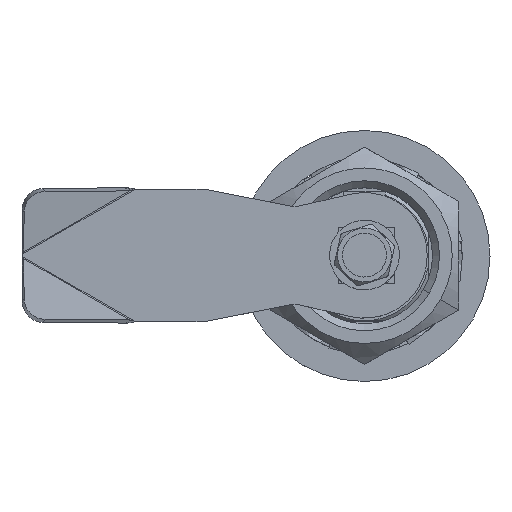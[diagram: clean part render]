
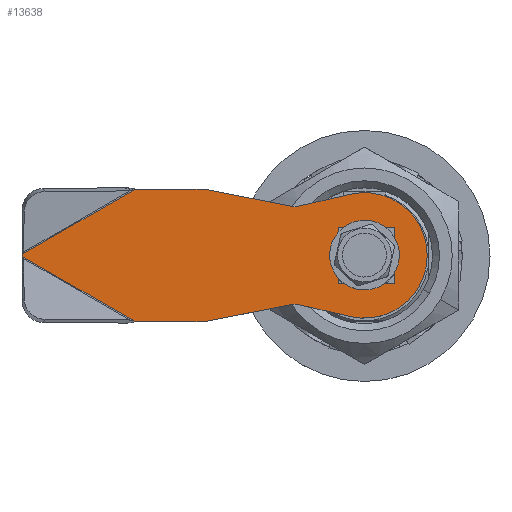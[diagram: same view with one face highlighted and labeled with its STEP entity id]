
A CAD part, top view. The second image highlights one B-rep face of the part: STEP entity #13638.
In plain terms, the highlighted planar face has unit normal (0, 0, 1) as drawn and (0, 0, -1) by its records, which use the part's own axes.
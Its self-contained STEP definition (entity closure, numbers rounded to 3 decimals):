
#196 = ORIENTED_EDGE ( 'NONE', *, *, #321, .F. ) ;
#197 = VERTEX_POINT ( 'NONE', #12923 ) ;
#201 = ORIENTED_EDGE ( 'NONE', *, *, #313, .F. ) ;
#207 = VERTEX_POINT ( 'NONE', #12922 ) ;
#208 = VERTEX_POINT ( 'NONE', #12921 ) ;
#213 = EDGE_LOOP ( 'NONE', ( #10716, #10686, #13636, #10912, #10890, #10891, #13639, #10904, #10892, #10896, #10943, #10900, #10934 ) ) ;
#214 = VERTEX_POINT ( 'NONE', #12919 ) ;
#309 = EDGE_CURVE ( 'NONE', #10698, #208, #12941, .T. ) ;
#313 = EDGE_CURVE ( 'NONE', #13645, #318, #12969, .T. ) ;
#316 = EDGE_CURVE ( 'NONE', #10566, #10895, #12973, .T. ) ;
#318 = VERTEX_POINT ( 'NONE', #12960 ) ;
#321 = EDGE_CURVE ( 'NONE', #318, #13642, #12961, .T. ) ;
#324 = EDGE_CURVE ( 'NONE', #207, #13645, #13005, .T. ) ;
#469 = CARTESIAN_POINT ( 'NONE',  ( 10.481, -7.047, 0. ) ) ;
#470 = LINE ( 'NONE', #469, #509 ) ;
#471 = CARTESIAN_POINT ( 'NONE',  ( 10.481, 7.047, 0. ) ) ;
#504 = DIRECTION ( 'NONE',  ( 1., 0., 0. ) ) ;
#505 = VECTOR ( 'NONE', #504, 1000. ) ;
#508 = DIRECTION ( 'NONE',  ( 0.981, -0.192, 0. ) ) ;
#509 = VECTOR ( 'NONE', #508, 1000. ) ;
#511 = CARTESIAN_POINT ( 'NONE',  ( 46., -9.5, 0. ) ) ;
#512 = LINE ( 'NONE', #511, #505 ) ;
#689 = DIRECTION ( 'NONE',  ( -0.866, -0.5, 0. ) ) ;
#696 = VECTOR ( 'NONE', #689, 1000. ) ;
#697 = CARTESIAN_POINT ( 'NONE',  ( 15.721, -19.409, 0. ) ) ;
#707 = CARTESIAN_POINT ( 'NONE',  ( 32.885, -9.5, 0. ) ) ;
#709 = LINE ( 'NONE', #697, #696 ) ;
#737 = CARTESIAN_POINT ( 'NONE',  ( 49., -0.196, 0. ) ) ;
#1200 = CIRCLE ( 'NONE', #1231, 9. ) ;
#1206 = DIRECTION ( 'NONE',  ( -1., 0., 0. ) ) ;
#1207 = DIRECTION ( 'NONE',  ( 0., 0., -1. ) ) ;
#1208 = CARTESIAN_POINT ( 'NONE',  ( 10., -9.5, 0. ) ) ;
#1215 = AXIS2_PLACEMENT_3D ( 'NONE', #1208, #1207, #1206 ) ;
#1219 = CIRCLE ( 'NONE', #1215, 2.5 ) ;
#1221 = CARTESIAN_POINT ( 'NONE',  ( 23., 9.5, 0. ) ) ;
#1228 = DIRECTION ( 'NONE',  ( 1., 0., 0. ) ) ;
#1229 = DIRECTION ( 'NONE',  ( 0., 0., 1. ) ) ;
#1230 = CARTESIAN_POINT ( 'NONE',  ( 0., 0., 0. ) ) ;
#1231 = AXIS2_PLACEMENT_3D ( 'NONE', #1230, #1229, #1228 ) ;
#1232 = LINE ( 'NONE', #1244, #1267 ) ;
#1233 = CARTESIAN_POINT ( 'NONE',  ( 32.885, 9.5, 0. ) ) ;
#1234 = CARTESIAN_POINT ( 'NONE',  ( 2.018, 8.771, 0. ) ) ;
#1236 = DIRECTION ( 'NONE',  ( -0.975, 0.224, 0. ) ) ;
#1237 = VECTOR ( 'NONE', #1236, 1000. ) ;
#1238 = CARTESIAN_POINT ( 'NONE',  ( 9.44, 7.064, 0. ) ) ;
#1240 = CARTESIAN_POINT ( 'NONE',  ( 9.44, 7.064, 0. ) ) ;
#1242 = LINE ( 'NONE', #1238, #1237 ) ;
#1244 = CARTESIAN_POINT ( 'NONE',  ( 46., 9.5, 0. ) ) ;
#1257 = DIRECTION ( 'NONE',  ( -0.981, -0.192, 0. ) ) ;
#1258 = VECTOR ( 'NONE', #1257, 1000. ) ;
#1262 = LINE ( 'NONE', #1273, #1258 ) ;
#1266 = DIRECTION ( 'NONE',  ( -1., 0., 0. ) ) ;
#1267 = VECTOR ( 'NONE', #1266, 1000. ) ;
#1273 = CARTESIAN_POINT ( 'NONE',  ( 10.481, 7.047, 0. ) ) ;
#1282 = DIRECTION ( 'NONE',  ( -0.866, 0.5, 0. ) ) ;
#1283 = VECTOR ( 'NONE', #1282, 1000. ) ;
#1284 = CARTESIAN_POINT ( 'NONE',  ( 23.948, 14.659, 0. ) ) ;
#1286 = LINE ( 'NONE', #1284, #1283 ) ;
#6091 = VERTEX_POINT ( 'NONE', #13001 ) ;
#6242 = VERTEX_POINT ( 'NONE', #13006 ) ;
#6325 = EDGE_CURVE ( 'NONE', #6242, #6091, #13010, .T. ) ;
#7514 = CARTESIAN_POINT ( 'NONE',  ( 10., -9.5, 0. ) ) ;
#7554 = DIRECTION ( 'NONE',  ( -1., 0., 0. ) ) ;
#7555 = CARTESIAN_POINT ( 'NONE',  ( -4.3, -4., 0. ) ) ;
#7557 = CARTESIAN_POINT ( 'NONE',  ( 10.481, -7.047, 0. ) ) ;
#7558 = DIRECTION ( 'NONE',  ( 0., 0., -1. ) ) ;
#7559 = DIRECTION ( 'NONE',  ( 0.975, 0.224, 0. ) ) ;
#7560 = VECTOR ( 'NONE', #7559, 1000. ) ;
#7561 = CARTESIAN_POINT ( 'NONE',  ( 9.44, -7.064, 0. ) ) ;
#7563 = LINE ( 'NONE', #7561, #7560 ) ;
#7564 = FACE_BOUND ( 'NONE', #13640, .T. ) ;
#7565 = DIRECTION ( 'NONE',  ( 0., -1., 0. ) ) ;
#7566 = VECTOR ( 'NONE', #7565, 1000. ) ;
#7567 = FACE_OUTER_BOUND ( 'NONE', #213, .T. ) ;
#7568 = CARTESIAN_POINT ( 'NONE',  ( 3.7, 4., 0. ) ) ;
#7569 = LINE ( 'NONE', #7568, #7566 ) ;
#7570 = PLANE ( 'NONE',  #7581 ) ;
#7574 = CARTESIAN_POINT ( 'NONE',  ( 3.7, 4., 0. ) ) ;
#7581 = AXIS2_PLACEMENT_3D ( 'NONE', #7514, #7558, #7554 ) ;
#10566 = VERTEX_POINT ( 'NONE', #471 ) ;
#10569 = EDGE_CURVE ( 'NONE', #13644, #214, #470, .T. ) ;
#10574 = EDGE_CURVE ( 'NONE', #214, #10700, #512, .T. ) ;
#10686 = ORIENTED_EDGE ( 'NONE', *, *, #10691, .T. ) ;
#10691 = EDGE_CURVE ( 'NONE', #10698, #10700, #709, .T. ) ;
#10698 = VERTEX_POINT ( 'NONE', #737 ) ;
#10700 = VERTEX_POINT ( 'NONE', #707 ) ;
#10716 = ORIENTED_EDGE ( 'NONE', *, *, #309, .F. ) ;
#10878 = VERTEX_POINT ( 'NONE', #1221 ) ;
#10879 = EDGE_CURVE ( 'NONE', #197, #13644, #1219, .T. ) ;
#10890 = ORIENTED_EDGE ( 'NONE', *, *, #10879, .F. ) ;
#10891 = ORIENTED_EDGE ( 'NONE', *, *, #13635, .F. ) ;
#10892 = ORIENTED_EDGE ( 'NONE', *, *, #10894, .F. ) ;
#10894 = EDGE_CURVE ( 'NONE', #10895, #10928, #1242, .T. ) ;
#10895 = VERTEX_POINT ( 'NONE', #1240 ) ;
#10896 = ORIENTED_EDGE ( 'NONE', *, *, #316, .F. ) ;
#10900 = ORIENTED_EDGE ( 'NONE', *, *, #10914, .F. ) ;
#10901 = EDGE_CURVE ( 'NONE', #10928, #6242, #1200, .T. ) ;
#10904 = ORIENTED_EDGE ( 'NONE', *, *, #10901, .F. ) ;
#10912 = ORIENTED_EDGE ( 'NONE', *, *, #10569, .F. ) ;
#10914 = EDGE_CURVE ( 'NONE', #10922, #10878, #1232, .T. ) ;
#10922 = VERTEX_POINT ( 'NONE', #1233 ) ;
#10923 = EDGE_CURVE ( 'NONE', #10878, #10566, #1262, .T. ) ;
#10928 = VERTEX_POINT ( 'NONE', #1234 ) ;
#10934 = ORIENTED_EDGE ( 'NONE', *, *, #10939, .F. ) ;
#10939 = EDGE_CURVE ( 'NONE', #208, #10922, #1286, .T. ) ;
#10943 = ORIENTED_EDGE ( 'NONE', *, *, #10923, .F. ) ;
#12919 = CARTESIAN_POINT ( 'NONE',  ( 23., -9.5, 0. ) ) ;
#12921 = CARTESIAN_POINT ( 'NONE',  ( 49., 0.196, 0. ) ) ;
#12922 = CARTESIAN_POINT ( 'NONE',  ( 3.7, -4., 0. ) ) ;
#12923 = CARTESIAN_POINT ( 'NONE',  ( 9.44, -7.064, 0. ) ) ;
#12941 = LINE ( 'NONE', #12980, #12979 ) ;
#12958 = DIRECTION ( 'NONE',  ( 1., 0., 0. ) ) ;
#12959 = DIRECTION ( 'NONE',  ( 0., 0., -1. ) ) ;
#12960 = CARTESIAN_POINT ( 'NONE',  ( -4.3, 4., 0. ) ) ;
#12961 = LINE ( 'NONE', #13009, #13008 ) ;
#12963 = DIRECTION ( 'NONE',  ( 0., 1., 0. ) ) ;
#12964 = VECTOR ( 'NONE', #12963, 1000. ) ;
#12965 = CARTESIAN_POINT ( 'NONE',  ( 10., 9.5, 0. ) ) ;
#12969 = LINE ( 'NONE', #12972, #12964 ) ;
#12971 = AXIS2_PLACEMENT_3D ( 'NONE', #12965, #12959, #12958 ) ;
#12972 = CARTESIAN_POINT ( 'NONE',  ( -4.3, -4., 0. ) ) ;
#12973 = CIRCLE ( 'NONE', #12971, 2.5 ) ;
#12978 = DIRECTION ( 'NONE',  ( 0., 1., 0. ) ) ;
#12979 = VECTOR ( 'NONE', #12978, 1000. ) ;
#12980 = CARTESIAN_POINT ( 'NONE',  ( 49., 6.5, 0. ) ) ;
#12994 = DIRECTION ( 'NONE',  ( 1., 0., 0. ) ) ;
#12995 = DIRECTION ( 'NONE',  ( 0., 0., 1. ) ) ;
#12996 = CARTESIAN_POINT ( 'NONE',  ( 0., 0., 0. ) ) ;
#12997 = AXIS2_PLACEMENT_3D ( 'NONE', #12996, #12995, #12994 ) ;
#13001 = CARTESIAN_POINT ( 'NONE',  ( 2.018, -8.771, 0. ) ) ;
#13002 = DIRECTION ( 'NONE',  ( -1., 0., 0. ) ) ;
#13003 = VECTOR ( 'NONE', #13002, 1000. ) ;
#13004 = CARTESIAN_POINT ( 'NONE',  ( 3.7, -4., 0. ) ) ;
#13005 = LINE ( 'NONE', #13004, #13003 ) ;
#13006 = CARTESIAN_POINT ( 'NONE',  ( -9., 0., 0. ) ) ;
#13007 = DIRECTION ( 'NONE',  ( 1., 0., 0. ) ) ;
#13008 = VECTOR ( 'NONE', #13007, 1000. ) ;
#13009 = CARTESIAN_POINT ( 'NONE',  ( -4.3, 4., 0. ) ) ;
#13010 = CIRCLE ( 'NONE', #12997, 9. ) ;
#13634 = EDGE_CURVE ( 'NONE', #13642, #207, #7569, .T. ) ;
#13635 = EDGE_CURVE ( 'NONE', #6091, #197, #7563, .T. ) ;
#13636 = ORIENTED_EDGE ( 'NONE', *, *, #10574, .F. ) ;
#13638 = ADVANCED_FACE ( 'NONE', ( #7564, #7567 ), #7570, .T. ) ;
#13639 = ORIENTED_EDGE ( 'NONE', *, *, #6325, .F. ) ;
#13640 = EDGE_LOOP ( 'NONE', ( #13643, #13641, #196, #201 ) ) ;
#13641 = ORIENTED_EDGE ( 'NONE', *, *, #13634, .F. ) ;
#13642 = VERTEX_POINT ( 'NONE', #7574 ) ;
#13643 = ORIENTED_EDGE ( 'NONE', *, *, #324, .F. ) ;
#13644 = VERTEX_POINT ( 'NONE', #7557 ) ;
#13645 = VERTEX_POINT ( 'NONE', #7555 ) ;
